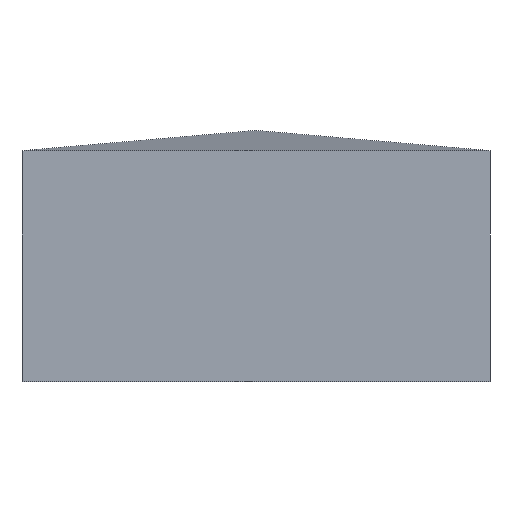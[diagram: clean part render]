
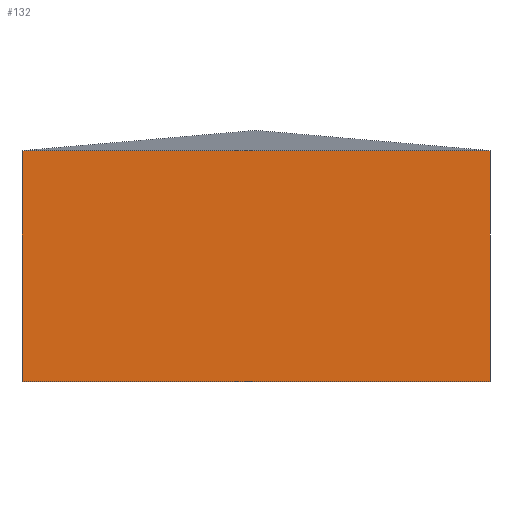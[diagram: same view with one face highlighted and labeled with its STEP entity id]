
A CAD part, front view. The second image highlights one B-rep face of the part: STEP entity #132.
In plain terms, the highlighted planar face has unit normal (0, -1, 0).
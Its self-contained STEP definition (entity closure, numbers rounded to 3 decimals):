
#16=FACE_OUTER_BOUND('',#25,.T.);
#25=EDGE_LOOP('',(#94,#95,#96,#97));
#34=LINE('',#199,#50);
#37=LINE('',#205,#53);
#38=LINE('',#207,#54);
#39=LINE('',#208,#55);
#50=VECTOR('',#162,10.);
#53=VECTOR('',#167,10.);
#54=VECTOR('',#168,10.);
#55=VECTOR('',#169,10.);
#66=VERTEX_POINT('',#196);
#67=VERTEX_POINT('',#198);
#69=VERTEX_POINT('',#204);
#70=VERTEX_POINT('',#206);
#75=EDGE_CURVE('',#67,#66,#34,.T.);
#78=EDGE_CURVE('',#66,#69,#37,.T.);
#79=EDGE_CURVE('',#70,#69,#38,.T.);
#80=EDGE_CURVE('',#67,#70,#39,.T.);
#94=ORIENTED_EDGE('',*,*,#78,.T.);
#95=ORIENTED_EDGE('',*,*,#79,.F.);
#96=ORIENTED_EDGE('',*,*,#80,.F.);
#97=ORIENTED_EDGE('',*,*,#75,.T.);
#123=PLANE('',#149);
#132=ADVANCED_FACE('',(#16),#123,.T.);
#149=AXIS2_PLACEMENT_3D('',#203,#165,#166);
#162=DIRECTION('',(0.,0.,1.));
#165=DIRECTION('center_axis',(0.,-1.,0.));
#166=DIRECTION('ref_axis',(1.,0.,0.));
#167=DIRECTION('',(-1.,0.,0.));
#168=DIRECTION('',(0.,0.,1.));
#169=DIRECTION('',(-1.,0.,0.));
#196=CARTESIAN_POINT('',(577.5,-577.5,0.));
#198=CARTESIAN_POINT('',(577.5,-577.5,-570.));
#199=CARTESIAN_POINT('',(577.5,-577.5,-570.));
#203=CARTESIAN_POINT('Origin',(-577.5,-577.5,-570.));
#204=CARTESIAN_POINT('',(-577.5,-577.5,0.));
#205=CARTESIAN_POINT('',(577.5,-577.5,0.));
#206=CARTESIAN_POINT('',(-577.5,-577.5,-570.));
#207=CARTESIAN_POINT('',(-577.5,-577.5,-570.));
#208=CARTESIAN_POINT('',(577.5,-577.5,-570.));
